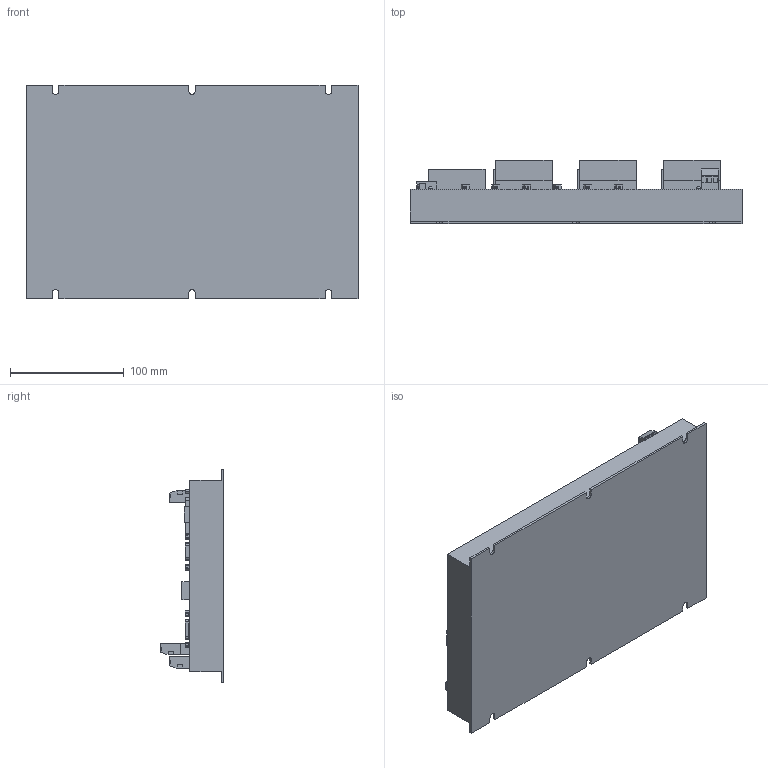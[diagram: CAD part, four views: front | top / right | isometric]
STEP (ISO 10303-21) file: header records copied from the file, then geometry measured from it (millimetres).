
FILE_DESCRIPTION (( 'STEP AP214' ), '1' );
FILE_NAME ('ZMC306.STEP', '2018-08-24T09:36:32', ( 'Microsoft' ), ( ' ' ), 'SwSTEP 2.0', 'SolidWorks 2014', '' );
FILE_SCHEMA (( 'AUTOMOTIVE_DESIGN' ));
Length unit declared in the file: millimetre
Products named in the file (11): 9渀-2齬-鼠芛; ZMC306-308-俋褲; ZMC306; 三连灯; 25渀-2齬-譫芛; 厙諳-傻; 傷赽-湮-3; 傷赽-湮-10; 腑; U攫; 9渀-2齬-譫芛
Assembly tree (24 placements, depth 3):
  ZMC306
    ZMC306-308-俋褲
    9渀-2齬-鼠芛
    9渀-2齬-譫芛
    U攫
    腑
    傷赽-湮-10  x7
    傷赽-湮-3
    厙諳-傻
    25渀-2齬-譫芛  x6
    三连灯
      腑  x3
Bounding box: 292 x 56 x 188 mm (x, y, z)
Volume: 1560876.4 mm3; surface area: 181055 mm2
Topology: 89 solids, 89 shells, 3178 faces, 8004 edges, 5332 vertices
Faces by surface type: plane 2206, cylinder 576, bspline 388, sphere 8
Entity records: 74229 total; most frequent: CARTESIAN_POINT 27997, ORIENTED_EDGE 9898, DIRECTION 7539, EDGE_CURVE 4949, VECTOR 3809, LINE 3809, VERTEX_POINT 3299, EDGE_LOOP 1956
